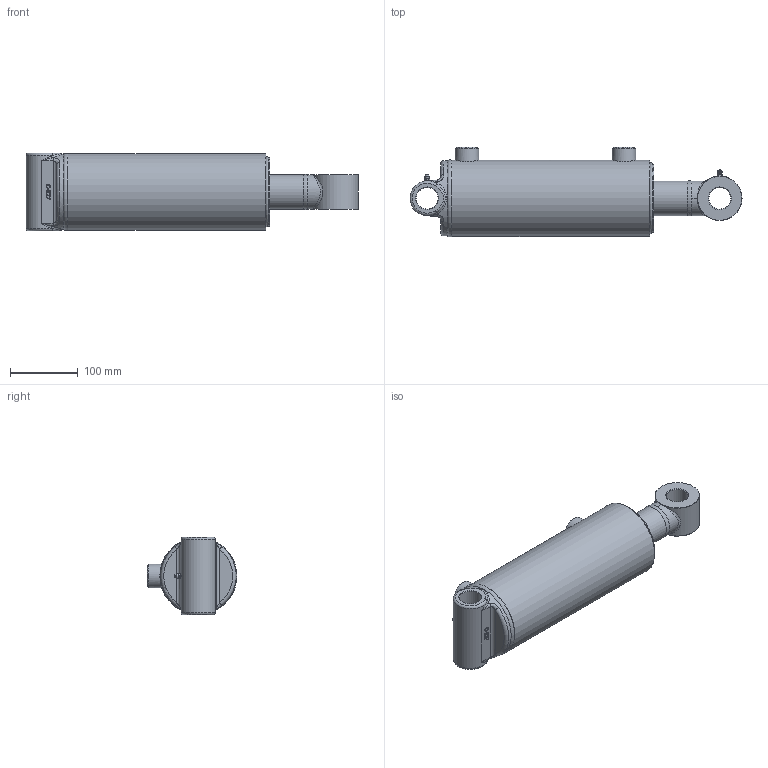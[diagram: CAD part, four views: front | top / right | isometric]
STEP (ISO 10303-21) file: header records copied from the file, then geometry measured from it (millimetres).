
FILE_DESCRIPTION(/* description */ ('Ø4.00 X 8.00 DA'),/* implementation_level */ '2;1');
FILE_NAME(/* name */ 'D:\Temp\1EC5F45590FDF0D\n1ayl5dw.h4x\Temp\osan2qi5..stp',/* time_stamp */ '2020-09-18T15:48:32+00:00',/* author */ (''),/* organization */ ('PRINCE MANUFACTURING'),/* preprocessor_version */ 'ST-DEVELOPER v18.1',/* originating_system */ 'Autodesk Inventor 2021',/* authorisation */ '');
FILE_SCHEMA (('AUTOMOTIVE_DESIGN { 1 0 10303 214 3 1 1 }'));
Length unit declared in the file: inch
Products named in the file (21): PC4008020A00-170XTXS; 0619-XTSG00-080; 0519-T-11620; 161900225; 200015706; 06Weld1_C360; 0719-P-125; 220000212; 0819-G-200; 230025106; 230025006; 240000026; 240061342; 240000342; 0211-AXS40-170X; 0111A-JAW4-13937; 210600511; 02Weld_C360; 240020009; 250014200; 270010020
Assembly tree (22 placements, depth 3):
  PC4008020A00-170XTXS
    0619-XTSG00-080
      0519-T-11620
      161900225
      200015706  x2
      06Weld1_C360
    0719-P-125
    220000212
    0819-G-200
    230025106
    230025006
    240000026
    240061342
    240000342
    0211-AXS40-170X
      0111A-JAW4-13937
      210600511
      02Weld_C360
    240020009
    250014200
    270010020  x2
Bounding box: 489.87 x 132.19 x 114.3 mm (x, y, z)
Volume: 2148094.9 mm3; surface area: 484863.3 mm2
Topology: 26 solids, 26 shells, 499 faces, 1415 edges, 978 vertices
Faces by surface type: plane 139, bspline 126, torus 90, cylinder 80, cone 62, sphere 2
Full cylindrical faces by diameter (mm): 1.524 x2, 5.359 x2, 6.35 x2, 12.7 x2, 20.269 x2, 29.464 x1, 31.699 x1, 31.826 x1, 32.131 x2, 34.315 x1, 34.925 x2, 35.052 x2, 50.8 x1, 50.876 x2, 51.994 x2, 52.832 x1, 53.188 x1, 57.963 x1, 59.157 x1, 60.35 x1, 61.976 x2, 63.5 x2, 73.152 x1, 82.55 x1, 92.177 x2, 92.913 x2, 96.52 x1, 98.031 x2, 98.273 x4, 100.986 x2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
Entity records: 32916 total; most frequent: CARTESIAN_POINT 19556, ORIENTED_EDGE 2656, DIRECTION 2459, EDGE_CURVE 1328, AXIS2_PLACEMENT_3D 1059, VERTEX_POINT 925, CIRCLE 657, EDGE_LOOP 539
